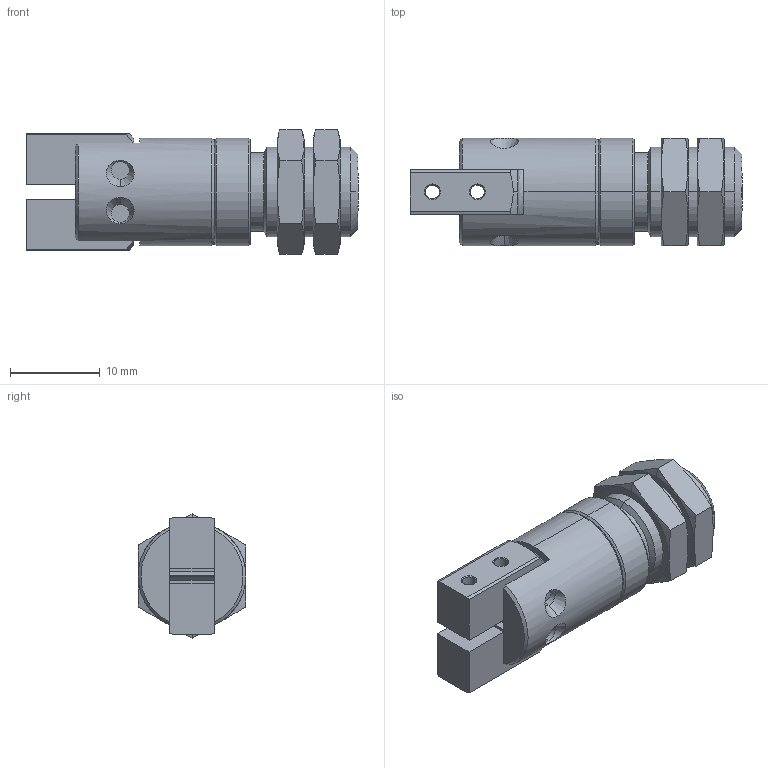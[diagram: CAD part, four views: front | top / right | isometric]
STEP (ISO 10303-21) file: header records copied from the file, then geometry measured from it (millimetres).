
FILE_DESCRIPTION (( 'STEP AP214' ), '1' );
FILE_NAME ('SHM08ABS.STEP', '2025-01-06T10:29:44', ( '' ), ( '' ), 'SwSTEP 2.0', 'SolidWorks 2023', '' );
FILE_SCHEMA (( 'AUTOMOTIVE_DESIGN' ));
Length unit declared in the file: millimetre
Products named in the file (6): P-1HM082M07; P-1HM082M30_X2_4E0A_X0_; U-MN10P1; SHM08ABS; UU-1HM08ABS; P-1HM082M30_X2_4E0B_X0_
Assembly tree (6 placements, depth 2):
  SHM08ABS
    P-1HM082M07
    P-1HM082M30_X2_4E0A_X0_
    P-1HM082M30_X2_4E0B_X0_
    UU-1HM08ABS
    U-MN10P1  x2
Bounding box: 37 x 12 x 13.86 mm (x, y, z)
Volume: 3306.8 mm3; surface area: 3978.4 mm2
Topology: 6 solids, 6 shells, 188 faces, 455 edges, 292 vertices
Faces by surface type: plane 69, cylinder 65, cone 51, bspline 3
Entity records: 5685 total; most frequent: CARTESIAN_POINT 1316, DIRECTION 918, ORIENTED_EDGE 846, EDGE_CURVE 423, AXIS2_PLACEMENT_3D 366, VERTEX_POINT 272, EDGE_LOOP 207, CIRCLE 186
